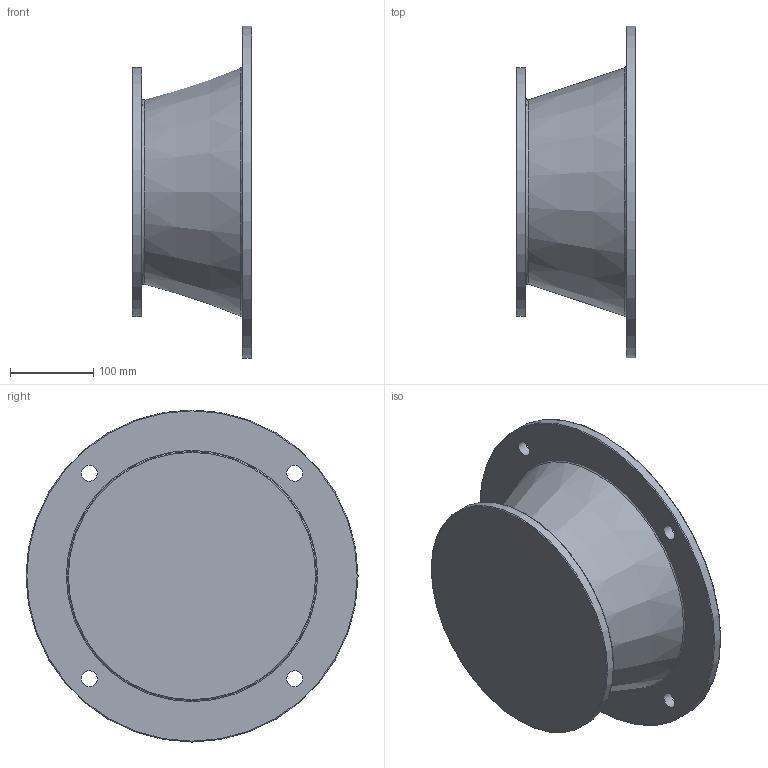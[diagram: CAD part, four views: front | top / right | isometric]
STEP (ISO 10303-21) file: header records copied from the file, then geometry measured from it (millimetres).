
FILE_DESCRIPTION((''),'2;1');
FILE_NAME('D:\PAWEŁ\ZLECENIA\DualSystem\001 Modele\DKAB90_\DK_90_STEP\200_B5_L144,5.stp','2011-11-26T10:02:39',('Pawe'),(''),'Autodesk Inventor 2009','Autodesk Inventor 2009','');
FILE_SCHEMA(('AUTOMOTIVE_DESIGN { 1 0 10303 214 1 1 1 1 }'));
Length unit declared in the file: millimetre
Products named in the file (1): 200_B5_L144,5
Bounding box: 144.5 x 400 x 400 mm (x, y, z)
Volume: 2458950 mm3; surface area: 532495.4 mm2
Topology: 1 solids, 1 shells, 30 faces, 58 edges, 36 vertices
Faces by surface type: plane 11, cylinder 6, bspline 6, torus 5, cone 2
Full cylindrical faces by diameter (mm): 75 x1, 287.356 x1, 300 x2, 400 x1
Entity records: 895 total; most frequent: CARTESIAN_POINT 281, DIRECTION 120, ORIENTED_EDGE 80, EDGE_LOOP 62, AXIS2_PLACEMENT_3D 55, EDGE_CURVE 40, VERTEX_POINT 36, FACE_BOUND 32
